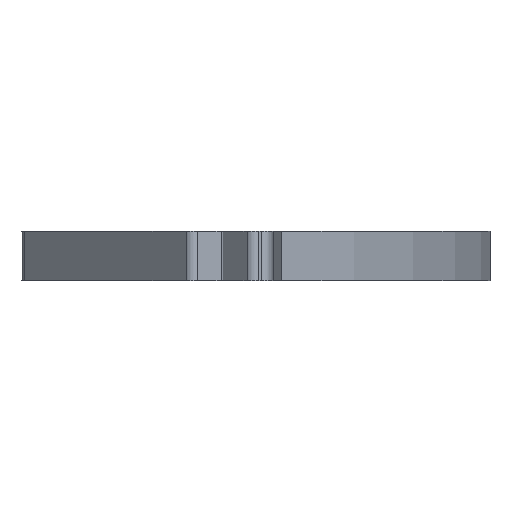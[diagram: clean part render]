
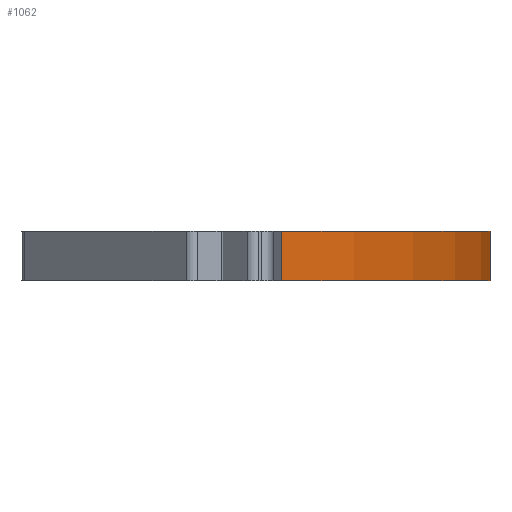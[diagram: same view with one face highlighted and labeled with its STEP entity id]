
A CAD part, front view. The second image highlights one B-rep face of the part: STEP entity #1062.
In plain terms, the highlighted cylindrical face has radius 43.5 mm (diameter 87 mm), a partial arc.
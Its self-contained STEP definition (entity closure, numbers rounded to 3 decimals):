
#96=FACE_OUTER_BOUND('',#150,.T.);
#150=EDGE_LOOP('',(#979,#980,#981,#982));
#252=LINE('',#1803,#356);
#254=LINE('',#1807,#358);
#356=VECTOR('',#1484,10.);
#358=VECTOR('',#1490,10.);
#386=CIRCLE('',#1102,43.5);
#390=CIRCLE('',#1113,43.5);
#465=VERTEX_POINT('',#1610);
#466=VERTEX_POINT('',#1612);
#474=VERTEX_POINT('',#1642);
#475=VERTEX_POINT('',#1644);
#572=EDGE_CURVE('',#465,#466,#386,.T.);
#588=EDGE_CURVE('',#474,#475,#390,.T.);
#668=EDGE_CURVE('',#465,#475,#252,.T.);
#670=EDGE_CURVE('',#474,#466,#254,.T.);
#979=ORIENTED_EDGE('',*,*,#670,.T.);
#980=ORIENTED_EDGE('',*,*,#572,.F.);
#981=ORIENTED_EDGE('',*,*,#668,.T.);
#982=ORIENTED_EDGE('',*,*,#588,.F.);
#1008=CYLINDRICAL_SURFACE('',#1176,43.5);
#1062=ADVANCED_FACE('',(#96),#1008,.T.);
#1102=AXIS2_PLACEMENT_3D('',#1613,#1271,#1272);
#1113=AXIS2_PLACEMENT_3D('',#1645,#1305,#1306);
#1176=AXIS2_PLACEMENT_3D('',#1809,#1493,#1494);
#1271=DIRECTION('center_axis',(0.,0.,1.));
#1272=DIRECTION('ref_axis',(-0.707,0.707,0.));
#1305=DIRECTION('center_axis',(0.,0.,-1.));
#1306=DIRECTION('ref_axis',(-0.707,0.707,0.));
#1484=DIRECTION('',(0.,0.,-1.));
#1490=DIRECTION('',(0.,0.,1.));
#1493=DIRECTION('center_axis',(0.,0.,1.));
#1494=DIRECTION('ref_axis',(-0.707,0.707,0.));
#1610=CARTESIAN_POINT('',(30.759,-30.759,1.5));
#1612=CARTESIAN_POINT('',(30.759,30.759,1.5));
#1613=CARTESIAN_POINT('Origin',(0.,0.,1.5));
#1642=CARTESIAN_POINT('',(30.759,30.759,-1.5));
#1644=CARTESIAN_POINT('',(30.759,-30.759,-1.5));
#1645=CARTESIAN_POINT('Origin',(0.,0.,-1.5));
#1803=CARTESIAN_POINT('',(30.759,-30.759,0.));
#1807=CARTESIAN_POINT('',(30.759,30.759,0.));
#1809=CARTESIAN_POINT('Origin',(0.,0.,0.));
